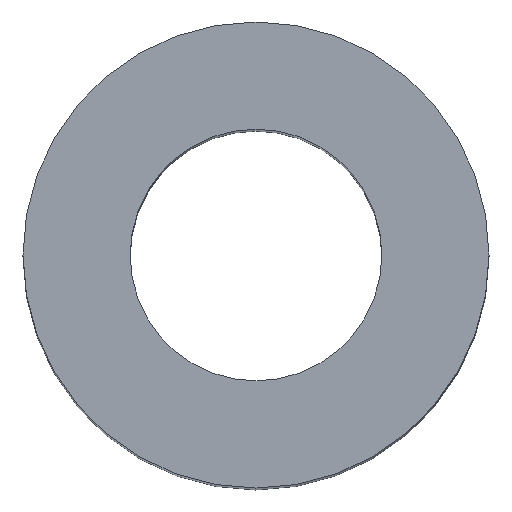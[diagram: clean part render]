
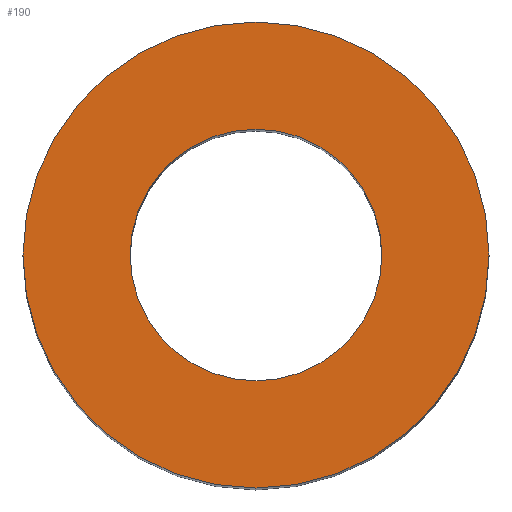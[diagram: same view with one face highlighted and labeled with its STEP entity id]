
A CAD part, top view. The second image highlights one B-rep face of the part: STEP entity #190.
In plain terms, the highlighted planar face has unit normal (0, 0, 1).
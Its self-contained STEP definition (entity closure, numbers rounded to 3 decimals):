
#24 = VERTEX_POINT('',#25);
#25 = CARTESIAN_POINT('',(5.,2.5,12.));
#32 = CYLINDRICAL_SURFACE('',#33,2.5);
#33 = AXIS2_PLACEMENT_3D('',#34,#35,#36);
#34 = CARTESIAN_POINT('',(2.5,2.5,0.));
#35 = DIRECTION('',(-0.,-0.,-1.));
#36 = DIRECTION('',(1.,0.,0.));
#51 = EDGE_CURVE('',#24,#24,#52,.T.);
#52 = SURFACE_CURVE('',#53,(#58,#65),.PCURVE_S1.);
#53 = CIRCLE('',#54,2.5);
#54 = AXIS2_PLACEMENT_3D('',#55,#56,#57);
#55 = CARTESIAN_POINT('',(2.5,2.5,12.));
#56 = DIRECTION('',(0.,0.,1.));
#57 = DIRECTION('',(1.,0.,0.));
#58 = PCURVE('',#32,#59);
#59 = DEFINITIONAL_REPRESENTATION('',(#60),#64);
#60 = LINE('',#61,#62);
#61 = CARTESIAN_POINT('',(-0.,-12.));
#62 = VECTOR('',#63,1.);
#63 = DIRECTION('',(-1.,0.));
#64 = ( GEOMETRIC_REPRESENTATION_CONTEXT(2) 
PARAMETRIC_REPRESENTATION_CONTEXT() REPRESENTATION_CONTEXT('2D SPACE',''
  ) );
#65 = PCURVE('',#66,#71);
#66 = PLANE('',#67);
#67 = AXIS2_PLACEMENT_3D('',#68,#69,#70);
#68 = CARTESIAN_POINT('',(2.5,2.5,12.));
#69 = DIRECTION('',(0.,0.,1.));
#70 = DIRECTION('',(1.,0.,-0.));
#71 = DEFINITIONAL_REPRESENTATION('',(#72),#76);
#72 = CIRCLE('',#73,2.5);
#73 = AXIS2_PLACEMENT_2D('',#74,#75);
#74 = CARTESIAN_POINT('',(0.,0.));
#75 = DIRECTION('',(1.,0.));
#76 = ( GEOMETRIC_REPRESENTATION_CONTEXT(2) 
PARAMETRIC_REPRESENTATION_CONTEXT() REPRESENTATION_CONTEXT('2D SPACE',''
  ) );
#112 = VERTEX_POINT('',#113);
#113 = CARTESIAN_POINT('',(3.85,2.5,12.));
#120 = CYLINDRICAL_SURFACE('',#121,1.35);
#121 = AXIS2_PLACEMENT_3D('',#122,#123,#124);
#122 = CARTESIAN_POINT('',(2.5,2.5,0.));
#123 = DIRECTION('',(-0.,-0.,-1.));
#124 = DIRECTION('',(1.,0.,0.));
#139 = EDGE_CURVE('',#112,#112,#140,.T.);
#140 = SURFACE_CURVE('',#141,(#146,#153),.PCURVE_S1.);
#141 = CIRCLE('',#142,1.35);
#142 = AXIS2_PLACEMENT_3D('',#143,#144,#145);
#143 = CARTESIAN_POINT('',(2.5,2.5,12.));
#144 = DIRECTION('',(0.,0.,1.));
#145 = DIRECTION('',(1.,0.,0.));
#146 = PCURVE('',#120,#147);
#147 = DEFINITIONAL_REPRESENTATION('',(#148),#152);
#148 = LINE('',#149,#150);
#149 = CARTESIAN_POINT('',(-0.,-12.));
#150 = VECTOR('',#151,1.);
#151 = DIRECTION('',(-1.,0.));
#152 = ( GEOMETRIC_REPRESENTATION_CONTEXT(2) 
PARAMETRIC_REPRESENTATION_CONTEXT() REPRESENTATION_CONTEXT('2D SPACE',''
  ) );
#153 = PCURVE('',#66,#154);
#154 = DEFINITIONAL_REPRESENTATION('',(#155),#159);
#155 = CIRCLE('',#156,1.35);
#156 = AXIS2_PLACEMENT_2D('',#157,#158);
#157 = CARTESIAN_POINT('',(0.,0.));
#158 = DIRECTION('',(1.,0.));
#159 = ( GEOMETRIC_REPRESENTATION_CONTEXT(2) 
PARAMETRIC_REPRESENTATION_CONTEXT() REPRESENTATION_CONTEXT('2D SPACE',''
  ) );
#190 = ADVANCED_FACE('',(#191,#194),#66,.T.);
#191 = FACE_BOUND('',#192,.T.);
#192 = EDGE_LOOP('',(#193));
#193 = ORIENTED_EDGE('',*,*,#51,.T.);
#194 = FACE_BOUND('',#195,.T.);
#195 = EDGE_LOOP('',(#196));
#196 = ORIENTED_EDGE('',*,*,#139,.F.);
